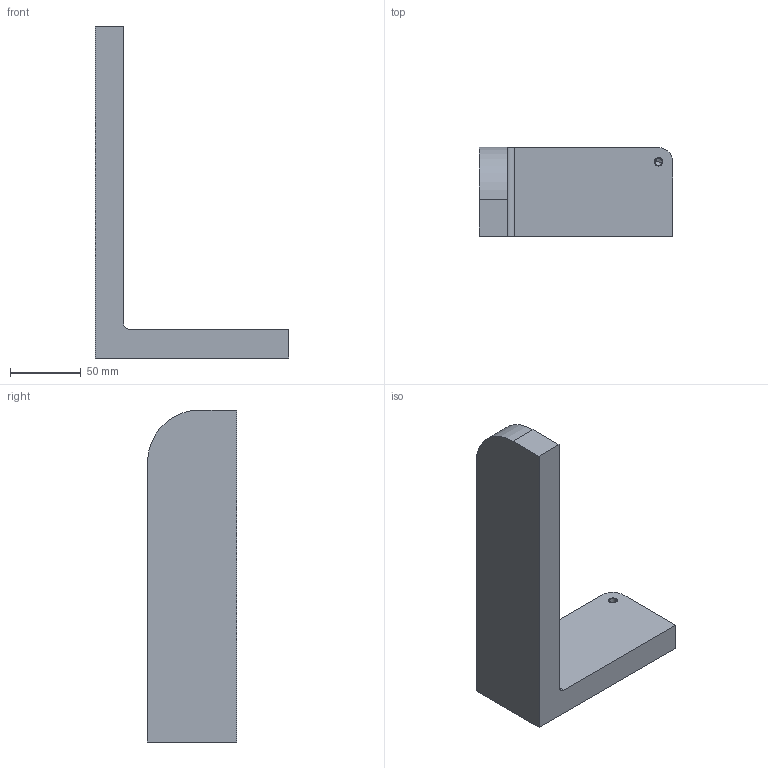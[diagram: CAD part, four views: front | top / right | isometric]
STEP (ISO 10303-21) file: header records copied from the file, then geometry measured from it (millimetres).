
FILE_DESCRIPTION(('CATIA V5 STEP Exchange'),'2;1');
FILE_NAME('C:\_Andres\UNIVERSIDAD\IQS\ASIGNATURAS\DAO\EXF\EXF-16172c\2inicio\Garcia_Granada_Ej01_v37.stp','2017-03-05T15:11:13+00:00',('none'),('none'),'CATIA Version 5-6 Release 2014 SP1 HF18','CATIA V5 STEP AP203','none');
FILE_SCHEMA(('CONFIG_CONTROL_DESIGN'));
Length unit declared in the file: millimetre
Products named in the file (1): Garcia_Granada_Ej01_v37
Bounding box: 137 x 63 x 235 mm (x, y, z)
Volume: 437240.2 mm3; surface area: 60269.9 mm2
Topology: 1 solids, 2 shells, 17 faces, 43 edges, 27 vertices
Faces by surface type: plane 8, cylinder 7, cone 2
Entity records: 513 total; most frequent: CARTESIAN_POINT 83, ORIENTED_EDGE 78, DIRECTION 69, EDGE_CURVE 41, AXIS2_PLACEMENT_3D 29, VECTOR 27, LINE 27, VERTEX_POINT 27
